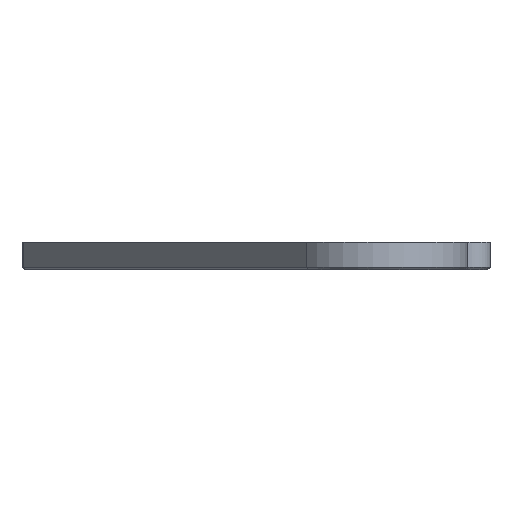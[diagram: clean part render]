
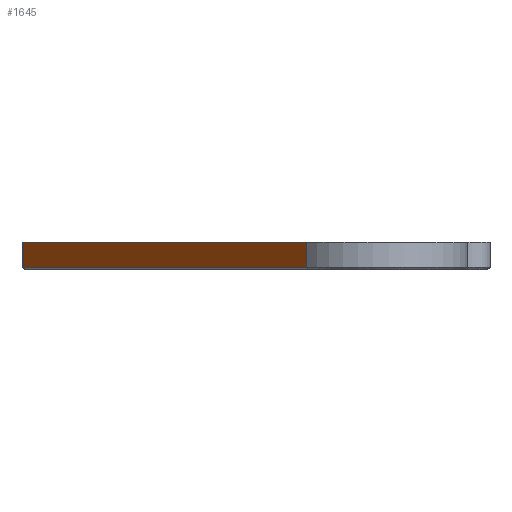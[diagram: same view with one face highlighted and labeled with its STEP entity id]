
A CAD part, left-side view. The second image highlights one B-rep face of the part: STEP entity #1645.
In plain terms, the highlighted planar face has unit normal (-0.601, 0.799, 0).
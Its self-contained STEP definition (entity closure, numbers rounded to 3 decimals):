
#227=FACE_OUTER_BOUND('',#322,.T.);
#322=EDGE_LOOP('',(#1206,#1207,#1208,#1209));
#437=LINE('',#2495,#581);
#473=LINE('',#2604,#617);
#474=LINE('',#2608,#618);
#475=LINE('',#2609,#619);
#581=VECTOR('',#1963,10.);
#617=VECTOR('',#2073,10.);
#618=VECTOR('',#2078,10.);
#619=VECTOR('',#2079,10.);
#722=VERTEX_POINT('',#2485);
#724=VERTEX_POINT('',#2491);
#761=VERTEX_POINT('',#2603);
#762=VERTEX_POINT('',#2607);
#880=EDGE_CURVE('',#722,#724,#437,.T.);
#934=EDGE_CURVE('',#724,#761,#473,.T.);
#936=EDGE_CURVE('',#722,#762,#474,.T.);
#937=EDGE_CURVE('',#761,#762,#475,.T.);
#1206=ORIENTED_EDGE('',*,*,#880,.F.);
#1207=ORIENTED_EDGE('',*,*,#936,.T.);
#1208=ORIENTED_EDGE('',*,*,#937,.F.);
#1209=ORIENTED_EDGE('',*,*,#934,.F.);
#1595=PLANE('',#1779);
#1645=ADVANCED_FACE('',(#227),#1595,.F.);
#1779=AXIS2_PLACEMENT_3D('',#2606,#2076,#2077);
#1963=DIRECTION('',(0.8,0.601,0.));
#2073=DIRECTION('',(0.,0.,1.));
#2076=DIRECTION('center_axis',(0.601,-0.8,0.));
#2077=DIRECTION('ref_axis',(0.8,0.601,0.));
#2078=DIRECTION('',(0.,0.,1.));
#2079=DIRECTION('',(-0.8,-0.601,0.));
#2485=CARTESIAN_POINT('',(535.79,235.892,-88.636));
#2491=CARTESIAN_POINT('',(603.206,286.538,-88.636));
#2495=CARTESIAN_POINT('',(569.707,261.373,-88.636));
#2603=CARTESIAN_POINT('',(603.206,286.538,-84.136));
#2604=CARTESIAN_POINT('',(603.206,286.538,-89.136));
#2606=CARTESIAN_POINT('Origin',(535.79,235.892,-89.136));
#2607=CARTESIAN_POINT('',(535.79,235.892,-84.136));
#2608=CARTESIAN_POINT('',(535.79,235.892,-89.136));
#2609=CARTESIAN_POINT('',(603.472,286.739,-84.136));
